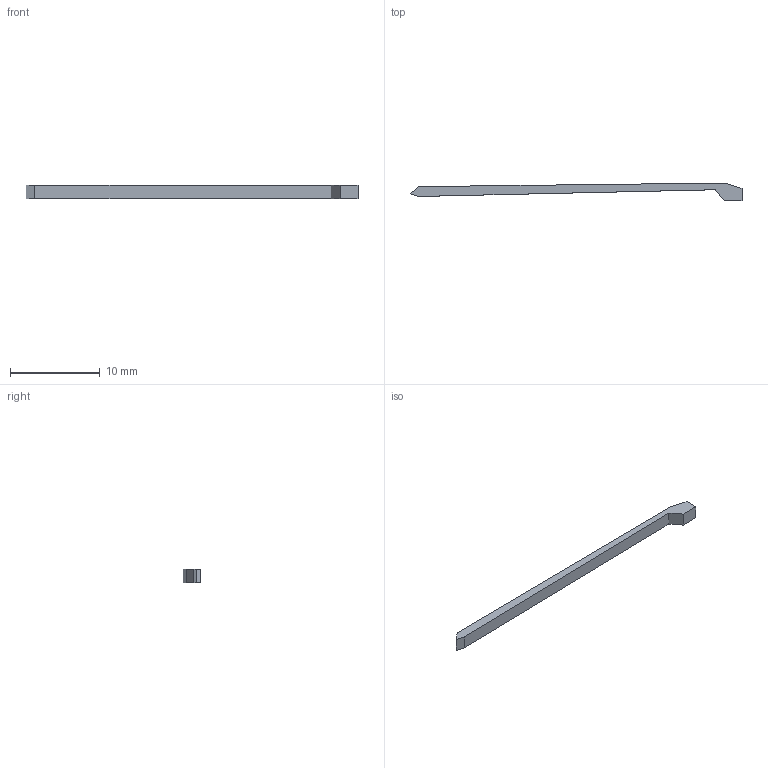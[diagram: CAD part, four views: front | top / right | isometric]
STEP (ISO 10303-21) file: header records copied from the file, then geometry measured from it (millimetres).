
FILE_DESCRIPTION(('Open CASCADE Model'),'2;1');
FILE_NAME('Open CASCADE Shape Model','2026-11-25T12:52:15',('Author'),( 'Open CASCADE'),'Open CASCADE STEP processor 8.0','Open CASCADE 8.0' ,'Unknown');
FILE_SCHEMA(('AP242_MANAGED_MODEL_BASED_3D_ENGINEERING_MIM_LF {1 0 10303 442 1 1 4 }' ));
Length unit declared in the file: millimetre
Products named in the file (1): Pocket clip
Bounding box: 37 x 2 x 1.5 mm (x, y, z)
Volume: 53.5 mm3; surface area: 185.9 mm2
Topology: 1 solids, 1 shells, 10 faces, 24 edges, 16 vertices
Faces by surface type: plane 10
Entity records: 619 total; most frequent: CARTESIAN_POINT 99, DIRECTION 94, LINE 72, VECTOR 72, ORIENTED_EDGE 48, PCURVE 48, DEFINITIONAL_REPRESENTATION 48, EDGE_CURVE 24
